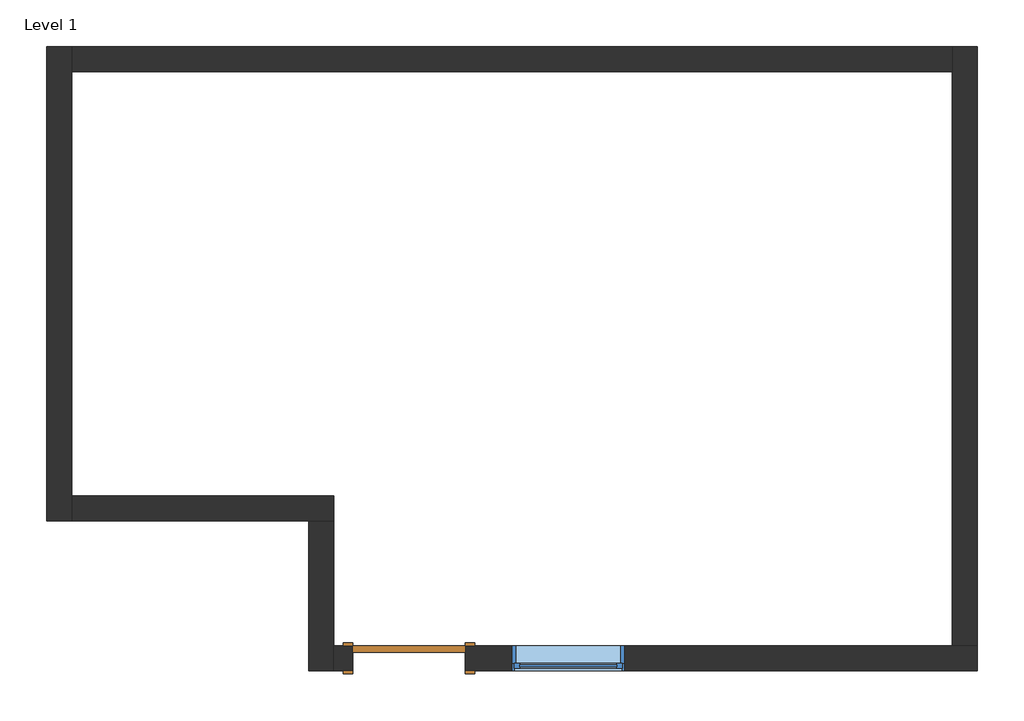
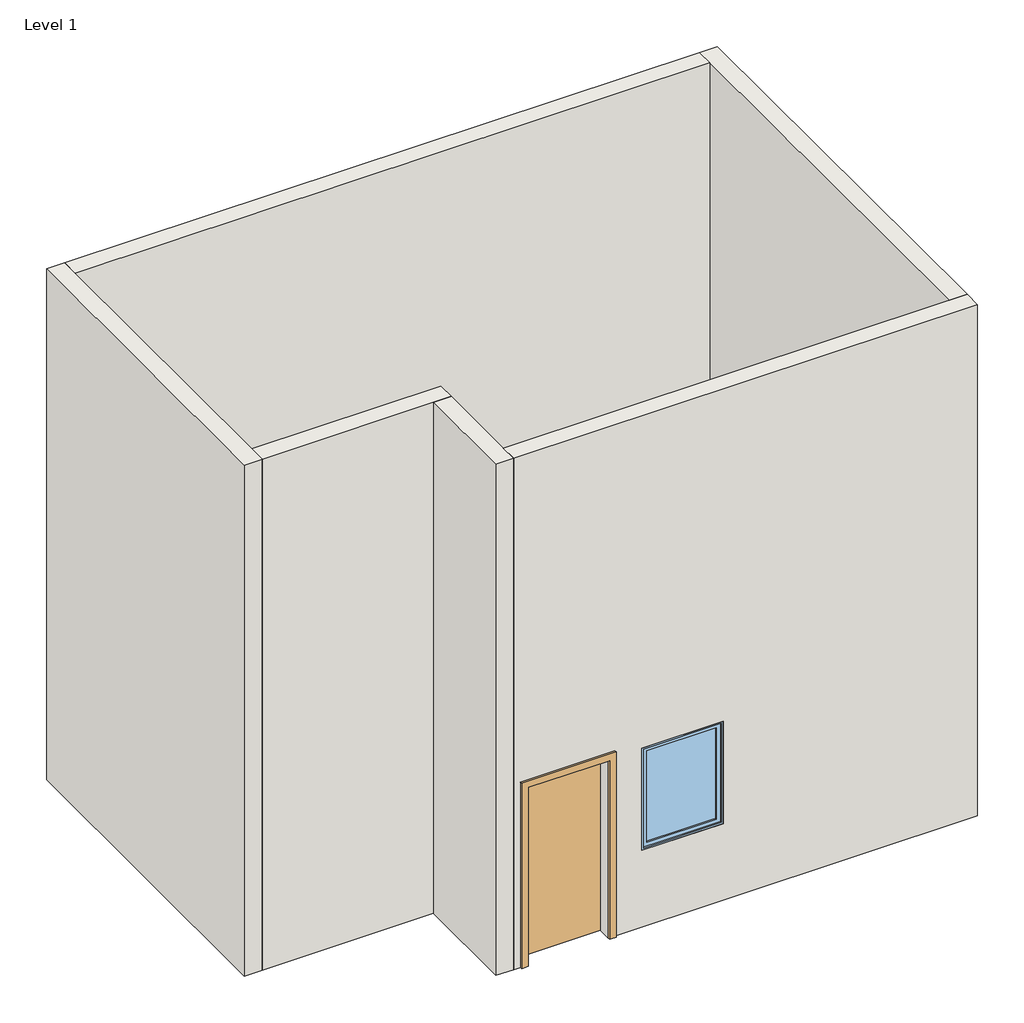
# One storey: 6 walls, 1 door, 1 window.
"""IFC4 building model written with IfcOpenShell, lengths in millimetres."""

from ifc_helpers import new_model, si_unit, origin, origin_with_axes, place, context, project, spatial, polyline, outline, extrude, faceted_brep, transform, mapped, element, save
from components import door_719f80de, window_e2841890

model = new_model("IFC4")

# Units and contexts
model_context = context("Model", 3, world=origin())
ifc_project = project(units=[si_unit("LENGTHUNIT", "METRE", prefix="MILLI")], contexts=[model_context])

# Site, building, storey
site = spatial("IfcSite", under=ifc_project)
building = spatial("IfcBuilding", under=site)
storey = spatial("IfcBuildingStorey", under=building, Name="Level 1", Elevation=0.0)

# Door
placement = place(None, origin())
door_shape = door_719f80de(model_context)
element("IfcDoor", 1, ObjectType="Single-Flush : 36\" x 84\"", at=placement, inside=storey, context=model_context, shape_type="MappedRepresentation", body=[
    mapped(door_shape, transform((-10262.5686925, 7572.1721531, 0.0), x_axis=(-1.0, 0.0, 0.0), y_axis=(0.0, -1.0, 0.0), z_axis=(0.0, 0.0, 1.0))),
])

# Walls
element("IfcWall", 2, ObjectType="Generic - 8\"", at=placement, inside=storey, context=model_context, shape_type="Brep", body=[
    faceted_brep([(-13208.9686925, 12550.5721531, 0.0), (-13208.9686925, 8689.7721531, 0.0), (-13208.9686925, 8689.7721531, 6096.0), (-13208.9686925, 12550.5721531, 6096.0), (-13005.7686925, 12550.5721531, 0.0), (-13005.7686925, 12550.5721531, 6096.0), (-13005.7686925, 12347.3721531, 6096.0), (-13005.7686925, 8892.9721531, 6096.0), (-13005.7686925, 8689.7721531, 6096.0), (-13005.7686925, 8689.7721531, 0.0), (-13005.7686925, 8892.9721531, 0.0), (-13005.7686925, 12347.3721531, 0.0)], [[[0, 1, 2, 3]], [[4, 5, 6, 7, 8, 9, 10, 11]], [[1, 0, 4, 11, 10, 9]], [[3, 2, 8, 7, 6, 5]], [[2, 1, 9, 8]], [[0, 3, 5, 4]]]),
])
element("IfcWall", 3, ObjectType="Generic - 8\"", at=placement, inside=storey, context=model_context, shape_type="Brep", body=[
    faceted_brep([(-13005.7686925, 8689.7721531, 0.0), (-11075.3686925, 8689.7721531, 0.0), (-10872.1686925, 8689.7721531, 0.0), (-10872.1686925, 8689.7721531, 6096.0), (-11075.3686925, 8689.7721531, 6096.0), (-13005.7686925, 8689.7721531, 6096.0), (-13005.7686925, 8892.9721531, 0.0), (-13005.7686925, 8892.9721531, 6096.0), (-10872.1686925, 8892.9721531, 6096.0), (-10872.1686925, 8892.9721531, 0.0)], [[[0, 1, 2, 3, 4, 5]], [[6, 7, 8, 9]], [[2, 1, 0, 6, 9]], [[5, 4, 3, 8, 7]], [[0, 5, 7, 6]], [[3, 2, 9, 8]]]),
])
element("IfcWall", 4, ObjectType="Generic - 8\"", at=placement, inside=storey, context=model_context, shape_type="Brep", body=[
    faceted_brep([(-11075.3686925, 8689.7721531, 0.0), (-11075.3686925, 7470.5721531, 0.0), (-11075.3686925, 7470.5721531, 6096.0), (-11075.3686925, 8689.7721531, 6096.0), (-10872.1686925, 8689.7721531, 0.0), (-10872.1686925, 8689.7721531, 6096.0), (-10872.1686925, 7673.7721531, 6096.0), (-10872.1686925, 7470.5721531, 6096.0), (-10872.1686925, 7470.5721531, 0.0), (-10872.1686925, 7673.7721531, 0.0)], [[[0, 1, 2, 3]], [[4, 5, 6, 7, 8, 9]], [[1, 0, 4, 9, 8]], [[3, 2, 7, 6, 5]], [[0, 3, 5, 4]], [[2, 1, 8, 7]]]),
])
element("IfcWall", 5, ObjectType="Generic - 8\"", at=placement, inside=storey, context=model_context, shape_type="Brep", body=[
    faceted_brep([(-10872.1686925, 7470.5721531, 0.0), (-10719.7686925, 7470.5721531, 0.0), (-10719.7686925, 7470.5721531, 2133.6), (-9805.3686925, 7470.5721531, 2133.6), (-9805.3686925, 7470.5721531, 0.0), (-5639.7686925, 7470.5721531, 0.0), (-5639.7686925, 7470.5721531, 6096.0), (-10872.1686925, 7470.5721531, 6096.0), (-9424.3686925, 7470.5721531, 2133.6), (-8509.9686925, 7470.5721531, 2133.6), (-8509.9686925, 7470.5721531, 914.4), (-9424.3686925, 7470.5721531, 914.4), (-10719.7686925, 7673.7721531, 2133.6), (-10719.7686925, 7673.7721531, 0.0), (-10872.1686925, 7673.7721531, 0.0), (-10872.1686925, 7673.7721531, 6096.0), (-5842.9686925, 7673.7721531, 6096.0), (-5639.7686925, 7673.7721531, 6096.0), (-5639.7686925, 7673.7721531, 0.0), (-5842.9686925, 7673.7721531, 0.0), (-9805.3686925, 7673.7721531, 0.0), (-9805.3686925, 7673.7721531, 2133.6), (-9424.3686925, 7673.7721531, 2133.6), (-9424.3686925, 7673.7721531, 914.4), (-8509.9686925, 7673.7721531, 914.4), (-8509.9686925, 7673.7721531, 2133.6)], [[[0, 1, 2, 3, 4, 5, 6, 7], [8, 9, 10, 11]], [[12, 13, 14, 15, 16, 17, 18, 19, 20, 21], [22, 23, 24, 25]], [[14, 13, 1, 0]], [[20, 19, 18, 5, 4]], [[7, 6, 17, 16, 15]], [[0, 7, 15, 14]], [[6, 5, 18, 17]], [[2, 1, 13, 12]], [[3, 2, 12, 21]], [[4, 3, 21, 20]], [[23, 22, 8, 11]], [[24, 23, 11, 10]], [[25, 24, 10, 9]], [[22, 25, 9, 8]]]),
])
element("IfcWall", 6, ObjectType="Generic - 8\"", at=placement, inside=storey, context=model_context, shape_type="Brep", body=[
    faceted_brep([(-5639.7686925, 7673.7721531, 0.0), (-5639.7686925, 12550.5721531, 0.0), (-5639.7686925, 12550.5721531, 6096.0), (-5639.7686925, 7673.7721531, 6096.0), (-5842.9686925, 7673.7721531, 0.0), (-5842.9686925, 7673.7721531, 6096.0), (-5842.9686925, 12347.3721531, 6096.0), (-5842.9686925, 12550.5721531, 6096.0), (-5842.9686925, 12550.5721531, 0.0), (-5842.9686925, 12347.3721531, 0.0)], [[[0, 1, 2, 3]], [[4, 5, 6, 7, 8, 9]], [[1, 0, 4, 9, 8]], [[3, 2, 7, 6, 5]], [[0, 3, 5, 4]], [[2, 1, 8, 7]]]),
])
element("IfcWall", 7, ObjectType="Generic - 8\"", at=placement, inside=storey, context=model_context, shape_type="SweptSolid", body=[
    extrude(outline(polyline([(-13005.7686925, 12550.5721531), (-5842.9686925, 12550.5721531), (-5842.9686925, 12347.3721531), (-13005.7686925, 12347.3721531), (-13005.7686925, 12550.5721531)])), origin_with_axes(), (0.0, 0.0, 1.0), 6096.0),
])

# Window
window_shape = window_e2841890(model_context)
element("IfcWindow", 8, ObjectType="Fixed : 36\" x 48\"", at=placement, inside=storey, context=model_context, shape_type="MappedRepresentation", body=[
    mapped(window_shape, transform((-9005.2686925, 7572.1721531, 0.0), x_axis=(-1.0, 0.0, 0.0), y_axis=(0.0, -1.0, 0.0), z_axis=(0.0, 0.0, 1.0))),
])

save(model, "model.ifc")
